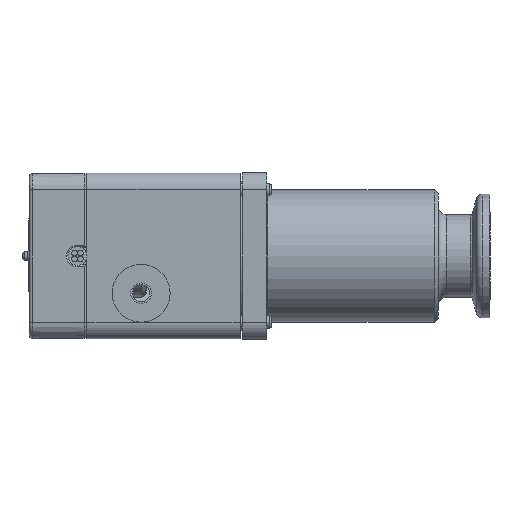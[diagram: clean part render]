
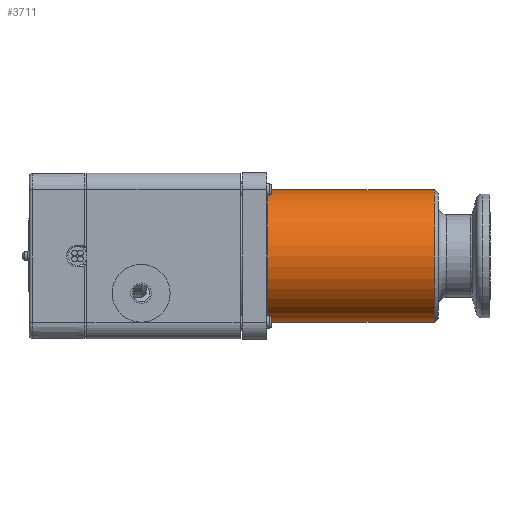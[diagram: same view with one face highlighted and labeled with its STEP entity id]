
A CAD part, left-side view. The second image highlights one B-rep face of the part: STEP entity #3711.
In plain terms, the highlighted cylindrical face has radius 16 mm (diameter 32 mm), a full revolution.
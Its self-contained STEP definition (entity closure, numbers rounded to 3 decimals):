
#3711=ADVANCED_FACE('',(#4382,#4383,#4384),#4206,.T.);
#4206=CYLINDRICAL_SURFACE('',#9861,16.);
#4334=B_SPLINE_CURVE_WITH_KNOTS('',3,(#13088,#13089,#13090,#13091,#13092,
#13093,#13094,#13095,#13096,#13097,#13098,#13099,#13100,#13101,#13102,#13103,
#13104,#13105),.UNSPECIFIED.,.T.,.F.,(2,2,2,2,2,2,2,2,2,2,2),(-0.125,0.,
0.125,0.25,0.375,0.5,0.625,0.75,0.875,1.,1.125),.UNSPECIFIED.);
#4382=FACE_BOUND('',#4825,.T.);
#4383=FACE_BOUND('',#4826,.T.);
#4384=FACE_BOUND('',#4827,.T.);
#4825=EDGE_LOOP('',(#5561));
#4826=EDGE_LOOP('',(#5562));
#4827=EDGE_LOOP('',(#5563));
#5561=ORIENTED_EDGE('',*,*,#8435,.T.);
#5562=ORIENTED_EDGE('',*,*,#8436,.T.);
#5563=ORIENTED_EDGE('',*,*,#8437,.T.);
#7663=VERTEX_POINT('',#13085);
#7664=VERTEX_POINT('',#13087);
#7665=VERTEX_POINT('',#13106);
#8435=EDGE_CURVE('',#7663,#7663,#9485,.T.);
#8436=EDGE_CURVE('',#7664,#7664,#9486,.T.);
#8437=EDGE_CURVE('',#7665,#7665,#4334,.T.);
#9485=CIRCLE('',#9859,16.);
#9486=CIRCLE('',#9860,16.);
#9859=AXIS2_PLACEMENT_3D('',#13084,#10726,#10727);
#9860=AXIS2_PLACEMENT_3D('',#13086,#10728,#10729);
#9861=AXIS2_PLACEMENT_3D('',#13107,#10730,#10731);
#10726=DIRECTION('',(1.,0.,0.));
#10727=DIRECTION('',(0.,0.,-1.));
#10728=DIRECTION('',(-1.,0.,0.));
#10729=DIRECTION('',(0.,0.,1.));
#10730=DIRECTION('',(-1.,0.,0.));
#10731=DIRECTION('',(0.,0.,1.));
#13084=CARTESIAN_POINT('',(13.5,0.,0.));
#13085=CARTESIAN_POINT('',(13.5,0.,-16.));
#13086=CARTESIAN_POINT('',(53.7,0.,0.));
#13087=CARTESIAN_POINT('',(53.7,0.,16.));
#13088=CARTESIAN_POINT('',(28.398,14.832,-6.));
#13089=CARTESIAN_POINT('',(31.602,14.832,-6.));
#13090=CARTESIAN_POINT('',(33.147,15.126,-5.339));
#13091=CARTESIAN_POINT('',(35.339,15.729,-3.146));
#13092=CARTESIAN_POINT('',(35.999,16.,-1.586));
#13093=CARTESIAN_POINT('',(36.001,16.,1.578));
#13094=CARTESIAN_POINT('',(35.342,15.729,3.145));
#13095=CARTESIAN_POINT('',(33.139,15.124,5.345));
#13096=CARTESIAN_POINT('',(31.579,14.833,5.999));
#13097=CARTESIAN_POINT('',(28.425,14.832,6.001));
#13098=CARTESIAN_POINT('',(26.867,15.122,5.353));
#13099=CARTESIAN_POINT('',(24.647,15.733,3.132));
#13100=CARTESIAN_POINT('',(24.,16.,1.58));
#13101=CARTESIAN_POINT('',(24.,16.,-1.584));
#13102=CARTESIAN_POINT('',(24.659,15.729,-3.146));
#13103=CARTESIAN_POINT('',(26.861,15.124,-5.345));
#13104=CARTESIAN_POINT('',(28.398,14.832,-6.));
#13105=CARTESIAN_POINT('',(31.602,14.832,-6.));
#13106=CARTESIAN_POINT('',(30.,14.832,-6.));
#13107=CARTESIAN_POINT('',(0.,0.,0.));
